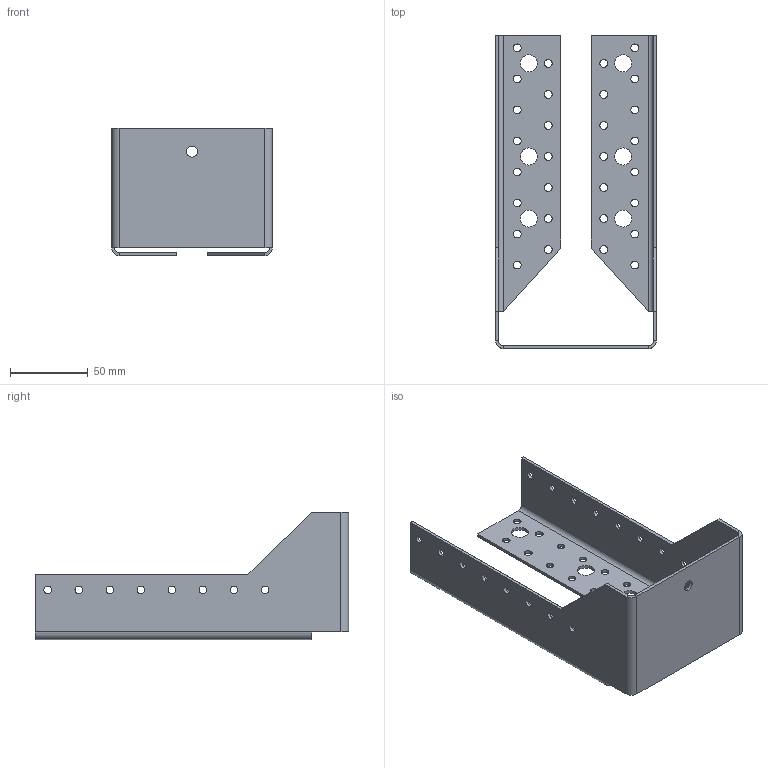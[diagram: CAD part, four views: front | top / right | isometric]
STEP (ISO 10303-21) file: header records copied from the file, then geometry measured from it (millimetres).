
FILE_DESCRIPTION (( 'STEP AP203' ), '1' );
FILE_NAME ('30632IKO.STEP', '2020-04-09T09:24:46', ( '' ), ( '' ), 'SwSTEP 2.0', 'SolidWorks 2013', '' );
FILE_SCHEMA (( 'CONFIG_CONTROL_DESIGN' ));
Length unit declared in the file: millimetre
Products named in the file (1): 30632IKO
Bounding box: 103.72 x 201.86 x 82 mm (x, y, z)
Volume: 76559.8 mm3; surface area: 80931.9 mm2
Topology: 1 solids, 1 shells, 150 faces, 412 edges, 264 vertices
Faces by surface type: cylinder 114, plane 36
Entity records: 5137 total; most frequent: DIRECTION 942, CARTESIAN_POINT 827, ORIENTED_EDGE 824, EDGE_CURVE 412, AXIS2_PLACEMENT_3D 379, VERTEX_POINT 264, EDGE_LOOP 256, CIRCLE 228
